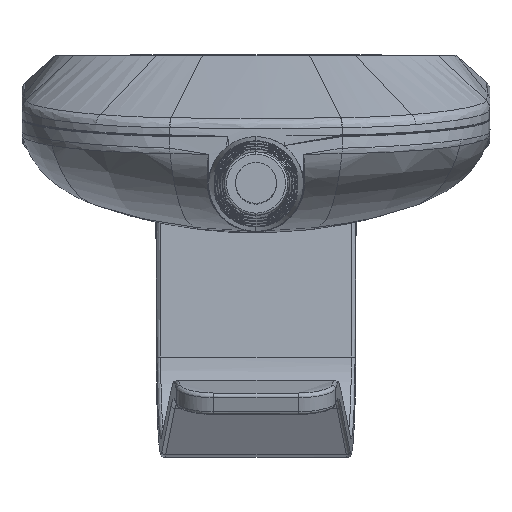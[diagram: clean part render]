
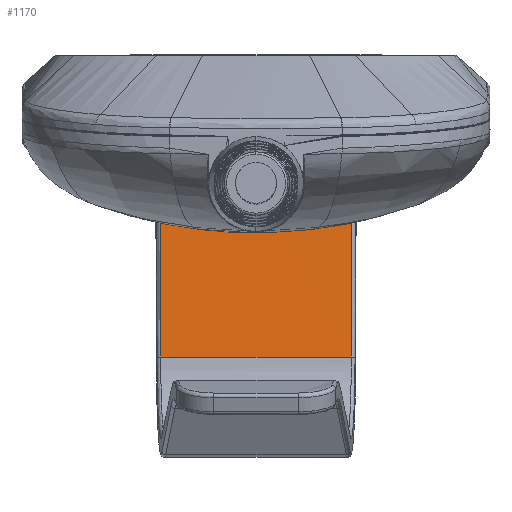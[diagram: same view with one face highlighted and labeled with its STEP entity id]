
A CAD part, top view. The second image highlights one B-rep face of the part: STEP entity #1170.
In plain terms, the highlighted free-form (B-spline) face has degree [1, 3] with [2, 4] control points.
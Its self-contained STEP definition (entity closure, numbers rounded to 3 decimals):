
#1170 = ADVANCED_FACE ( 'NONE', ( #40580 ), #40414, .F. ) ;
#3256 = CARTESIAN_POINT ( 'NONE',  ( 12.883, -8.359, -44.397 ) ) ;
#3921 = EDGE_CURVE ( 'NONE', #26522, #23754, #44519, .T. ) ;
#5997 = CARTESIAN_POINT ( 'NONE',  ( 2.728, -9.24, -44.374 ) ) ;
#6218 = CARTESIAN_POINT ( 'NONE',  ( -12.883, -8.359, -44.397 ) ) ;
#9479 = CARTESIAN_POINT ( 'NONE',  ( -13.037, -21.734, -43.871 ) ) ;
#9839 = CARTESIAN_POINT ( 'NONE',  ( 4.357, -9.181, -44.376 ) ) ;
#10073 = CARTESIAN_POINT ( 'NONE',  ( 12.883, -8.359, -44.397 ) ) ;
#10976 = ORIENTED_EDGE ( 'NONE', *, *, #39425, .F. ) ;
#11212 = CARTESIAN_POINT ( 'NONE',  ( -12.834, -28.464, -43.305 ) ) ;
#13546 = EDGE_CURVE ( 'NONE', #26522, #17239, #42314, .T. ) ;
#15852 = CARTESIAN_POINT ( 'NONE',  ( 13.037, -21.734, -43.871 ) ) ;
#16080 = CARTESIAN_POINT ( 'NONE',  ( -13.037, -14.99, -44.236 ) ) ;
#16686 = CARTESIAN_POINT ( 'NONE',  ( -12.883, -8.359, -44.397 ) ) ;
#17239 = VERTEX_POINT ( 'NONE', #3256 ) ;
#18589 = ORIENTED_EDGE ( 'NONE', *, *, #13546, .F. ) ;
#19175 = CARTESIAN_POINT ( 'NONE',  ( 12.834, -28.464, -43.305 ) ) ;
#19400 = B_SPLINE_CURVE_WITH_KNOTS ( 'NONE', 3,
 ( #33958, #23967, #23293, #20094 ),
 .UNSPECIFIED., .F., .F.,
 ( 4, 4 ),
 ( 0., 0.059 ),
 .UNSPECIFIED. ) ;
#19843 = CARTESIAN_POINT ( 'NONE',  ( 12.859, -21.775, -43.868 ) ) ;
#20067 = CARTESIAN_POINT ( 'NONE',  ( 12.875, -15.069, -44.232 ) ) ;
#20094 = CARTESIAN_POINT ( 'NONE',  ( -12.834, -28.464, -43.305 ) ) ;
#20512 = CARTESIAN_POINT ( 'NONE',  ( 5.437, -9.122, -44.377 ) ) ;
#21150 = CARTESIAN_POINT ( 'NONE',  ( -12.834, -28.464, -43.305 ) ) ;
#22446 = CARTESIAN_POINT ( 'NONE',  ( -13.037, -8.238, -44.4 ) ) ;
#23012 = ORIENTED_EDGE ( 'NONE', *, *, #25999, .F. ) ;
#23130 = CARTESIAN_POINT ( 'NONE',  ( 13.037, -8.238, -44.4 ) ) ;
#23264 = CARTESIAN_POINT ( 'NONE',  ( 2.184, -9.255, -44.374 ) ) ;
#23293 = CARTESIAN_POINT ( 'NONE',  ( -12.859, -21.775, -43.868 ) ) ;
#23754 = VERTEX_POINT ( 'NONE', #21150 ) ;
#23967 = CARTESIAN_POINT ( 'NONE',  ( -12.875, -15.069, -44.232 ) ) ;
#24991 = ORIENTED_EDGE ( 'NONE', *, *, #3921, .T. ) ;
#25999 = EDGE_CURVE ( 'NONE', #17239, #38565, #43830, .T. ) ;
#26522 = VERTEX_POINT ( 'NONE', #19175 ) ;
#26886 = CARTESIAN_POINT ( 'NONE',  ( 8.66, -8.89, -44.384 ) ) ;
#29713 = CARTESIAN_POINT ( 'NONE',  ( 13.037, -28.464, -43.305 ) ) ;
#30070 = CARTESIAN_POINT ( 'NONE',  ( 12.883, -8.359, -44.397 ) ) ;
#30298 = CARTESIAN_POINT ( 'NONE',  ( 12.834, -28.464, -43.305 ) ) ;
#30523 = CARTESIAN_POINT ( 'NONE',  ( 1.094, -9.275, -44.373 ) ) ;
#30752 = CARTESIAN_POINT ( 'NONE',  ( -8.674, -8.963, -44.382 ) ) ;
#31899 = CARTESIAN_POINT ( 'NONE',  ( 12.834, -28.464, -43.305 ) ) ;
#33958 = CARTESIAN_POINT ( 'NONE',  ( -12.883, -8.359, -44.397 ) ) ;
#36742 = CARTESIAN_POINT ( 'NONE',  ( 13.037, -14.99, -44.236 ) ) ;
#38565 = VERTEX_POINT ( 'NONE', #16686 ) ;
#39425 = EDGE_CURVE ( 'NONE', #38565, #23754, #19400, .T. ) ;
#40358 = CARTESIAN_POINT ( 'NONE',  ( -13.037, -28.464, -43.305 ) ) ;
#40414 =( BOUNDED_SURFACE ( )  B_SPLINE_SURFACE ( 1, 3, ( 
 ( #23130, #36742, #15852, #29713 ),
 ( #22446, #16080, #9479, #40358 ) ),
 .UNSPECIFIED., .F., .F., .F. ) 
 B_SPLINE_SURFACE_WITH_KNOTS ( ( 2, 2 ),
 ( 4, 4 ),
 ( 0., 1. ),
 ( 0., 1. ),
 .UNSPECIFIED. ) 
 GEOMETRIC_REPRESENTATION_ITEM ( )  RATIONAL_B_SPLINE_SURFACE ( (
 ( 1., 1., 1., 1.),
 ( 1., 1., 1., 1.) ) ) 
 REPRESENTATION_ITEM ( '' )  SURFACE ( )  );
#40580 = FACE_OUTER_BOUND ( 'NONE', #42806, .T. ) ;
#40946 = CARTESIAN_POINT ( 'NONE',  ( -4.366, -9.28, -44.373 ) ) ;
#42314 = B_SPLINE_CURVE_WITH_KNOTS ( 'NONE', 3,
 ( #30298, #19843, #20067, #10073 ),
 .UNSPECIFIED., .F., .F.,
 ( 4, 4 ),
 ( 0., 0.059 ),
 .UNSPECIFIED. ) ;
#42806 = EDGE_LOOP ( 'NONE', ( #18589, #24991, #10976, #23012 ) ) ;
#43830 = B_SPLINE_CURVE_WITH_KNOTS ( 'NONE', 3,
 ( #30070, #44810, #26886, #20512, #9839, #5997, #23264, #30523, #44127, #40946, #30752, #6218 ),
 .UNSPECIFIED., .F., .F.,
 ( 4, 2, 2, 2, 2, 4 ),
 ( 0., 0.25, 0.375, 0.437, 0.5, 1. ),
 .UNSPECIFIED. ) ;
#44127 = CARTESIAN_POINT ( 'NONE',  ( 0.546, -9.28, -44.373 ) ) ;
#44519 = B_SPLINE_CURVE_WITH_KNOTS ( 'NONE', 1,
 ( #31899, #11212 ),
 .UNSPECIFIED., .F., .F.,
 ( 2, 2 ),
 ( -1., 0. ),
 .UNSPECIFIED. ) ;
#44810 = CARTESIAN_POINT ( 'NONE',  ( 10.786, -8.66, -44.39 ) ) ;
